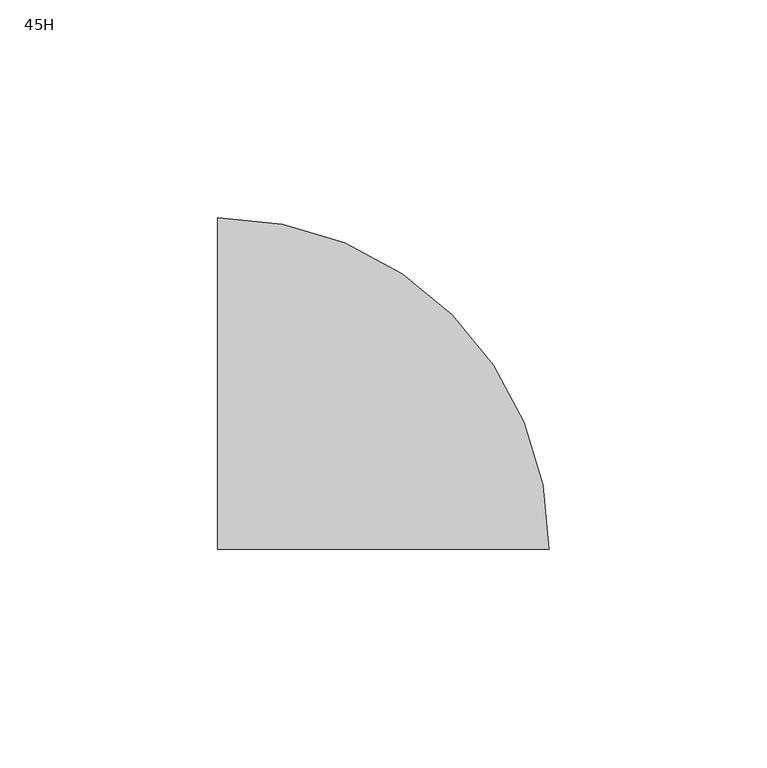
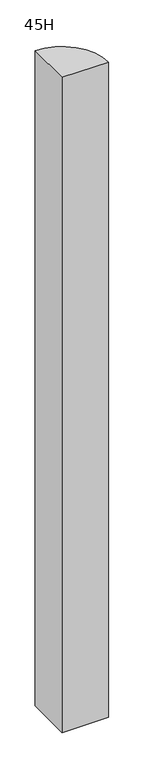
"""IFC4 building model written with IfcOpenShell, lengths in millimetres: furniture geometry, Steelcase - Montage - Junction - L Radius - Same-Height : 45H."""

from ifc_helpers import new_model, si_unit, point, frame, frame_2d, origin, place, context, project, spatial, polyline, circle_curve, trimmed, segment, composite_curve, outline, extrude, source, transform, mapped, element, save


def furniture_45h_6bc77c7a(model_context):
    return source(origin(), model_context, "Body", "SweptSolid", [
        extrude(outline(composite_curve([segment(trimmed(circle_curve(frame_2d((457.2, -38.1000006)), 76.2000006), [point((457.2, 38.1))], [point((533.4000006, -38.1000006))], False, "CARTESIAN"), True, "CONTINUOUS"), segment(polyline([(533.4000006, -38.1000006), (457.2, -38.1000006), (457.2, 38.1)]), True, "CONTINUOUS")], self_intersect=False)), frame((0.0, 0.0, 4.064), z_axis=(0.0, 0.0, 1.0), x_axis=(1.0, 0.0, 0.0)), (0.0, 0.0, 1.0), 1132.586),
    ])


if __name__ == "__main__":
    model = new_model("IFC4")
    model_context = context("Model", 3, world=origin())
    ifc_project = project(units=[si_unit("LENGTHUNIT", "METRE", prefix="MILLI")], contexts=[model_context])
    site = spatial("IfcSite", under=ifc_project)
    building = spatial("IfcBuilding", under=site)
    placement = place(None, origin())
    furniture_45h_shape = furniture_45h_6bc77c7a(model_context)
    element("IfcFurniture", 1, ObjectType="Steelcase - Montage - Junction - L Radius - Same-Height : 45H", at=placement, inside=building, context=model_context, shape_type="MappedRepresentation", body=[
        mapped(furniture_45h_shape, transform((0.0, 0.0, 0.0), x_axis=(1.0, 0.0, 0.0), y_axis=(0.0, 1.0, 0.0), z_axis=(0.0, 0.0, 1.0))),
    ])
    save(model, "model.ifc")
